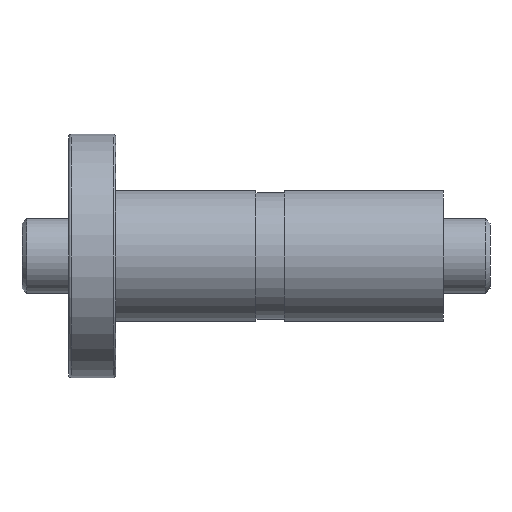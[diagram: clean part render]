
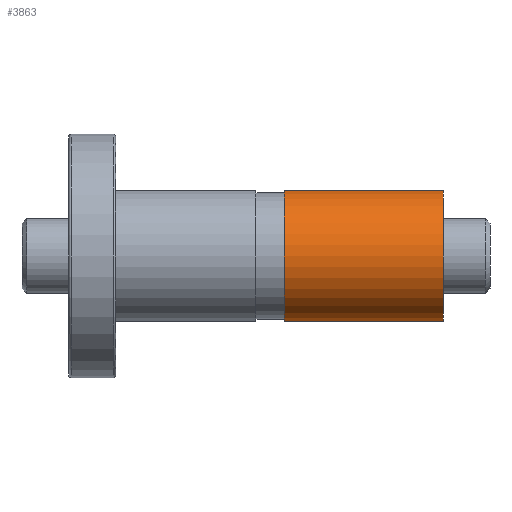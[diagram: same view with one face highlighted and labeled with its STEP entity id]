
A CAD part, front view. The second image highlights one B-rep face of the part: STEP entity #3863.
In plain terms, the highlighted cylindrical face has radius 14 mm (diameter 28 mm), a partial arc.
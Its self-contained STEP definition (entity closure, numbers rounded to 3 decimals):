
#39 = DIRECTION ( 'NONE',  ( 0., 0., 1. ) ) ;
#58 = ORIENTED_EDGE ( 'NONE', *, *, #981, .F. ) ;
#279 = CYLINDRICAL_SURFACE ( 'NONE', #2259, 14. ) ;
#395 = CARTESIAN_POINT ( 'NONE',  ( 80., 0., -14. ) ) ;
#609 = EDGE_LOOP ( 'NONE', ( #58, #4221, #1302, #4244 ) ) ;
#651 = DIRECTION ( 'NONE',  ( 1., 0., 0. ) ) ;
#654 = VERTEX_POINT ( 'NONE', #1155 ) ;
#730 = DIRECTION ( 'NONE',  ( -1., 0., 0. ) ) ;
#871 = VECTOR ( 'NONE', #2385, 1000. ) ;
#981 = EDGE_CURVE ( 'NONE', #2392, #1119, #2609, .T. ) ;
#991 = DIRECTION ( 'NONE',  ( -1., 0., 0. ) ) ;
#1119 = VERTEX_POINT ( 'NONE', #2743 ) ;
#1141 = VERTEX_POINT ( 'NONE', #3505 ) ;
#1155 = CARTESIAN_POINT ( 'NONE',  ( 80., 0., 14. ) ) ;
#1302 = ORIENTED_EDGE ( 'NONE', *, *, #1522, .T. ) ;
#1324 = CARTESIAN_POINT ( 'NONE',  ( 80., 0., -14. ) ) ;
#1438 = CARTESIAN_POINT ( 'NONE',  ( 80., 0., 14. ) ) ;
#1522 = EDGE_CURVE ( 'NONE', #654, #1141, #2318, .T. ) ;
#1707 = DIRECTION ( 'NONE',  ( 0., 0., -1. ) ) ;
#1799 = VECTOR ( 'NONE', #730, 1000. ) ;
#1910 = AXIS2_PLACEMENT_3D ( 'NONE', #2678, #2056, #1707 ) ;
#1925 = CIRCLE ( 'NONE', #2483, 14. ) ;
#2056 = DIRECTION ( 'NONE',  ( 1., 0., 0. ) ) ;
#2259 = AXIS2_PLACEMENT_3D ( 'NONE', #3297, #991, #39 ) ;
#2318 = LINE ( 'NONE', #1438, #1799 ) ;
#2385 = DIRECTION ( 'NONE',  ( -1., 0., 0. ) ) ;
#2392 = VERTEX_POINT ( 'NONE', #1324 ) ;
#2399 = EDGE_CURVE ( 'NONE', #1141, #1119, #4054, .T. ) ;
#2483 = AXIS2_PLACEMENT_3D ( 'NONE', #2661, #651, #3282 ) ;
#2609 = LINE ( 'NONE', #395, #871 ) ;
#2661 = CARTESIAN_POINT ( 'NONE',  ( 80., 0., 0. ) ) ;
#2678 = CARTESIAN_POINT ( 'NONE',  ( 46., 0., 0. ) ) ;
#2743 = CARTESIAN_POINT ( 'NONE',  ( 46., 0., -14. ) ) ;
#3282 = DIRECTION ( 'NONE',  ( 0., 0., -1. ) ) ;
#3297 = CARTESIAN_POINT ( 'NONE',  ( 80., 0., 0. ) ) ;
#3505 = CARTESIAN_POINT ( 'NONE',  ( 46., 0., 14. ) ) ;
#3863 = ADVANCED_FACE ( 'NONE', ( #4194 ), #279, .T. ) ;
#3924 = EDGE_CURVE ( 'NONE', #654, #2392, #1925, .T. ) ;
#4054 = CIRCLE ( 'NONE', #1910, 14. ) ;
#4194 = FACE_OUTER_BOUND ( 'NONE', #609, .T. ) ;
#4221 = ORIENTED_EDGE ( 'NONE', *, *, #3924, .F. ) ;
#4244 = ORIENTED_EDGE ( 'NONE', *, *, #2399, .T. ) ;
